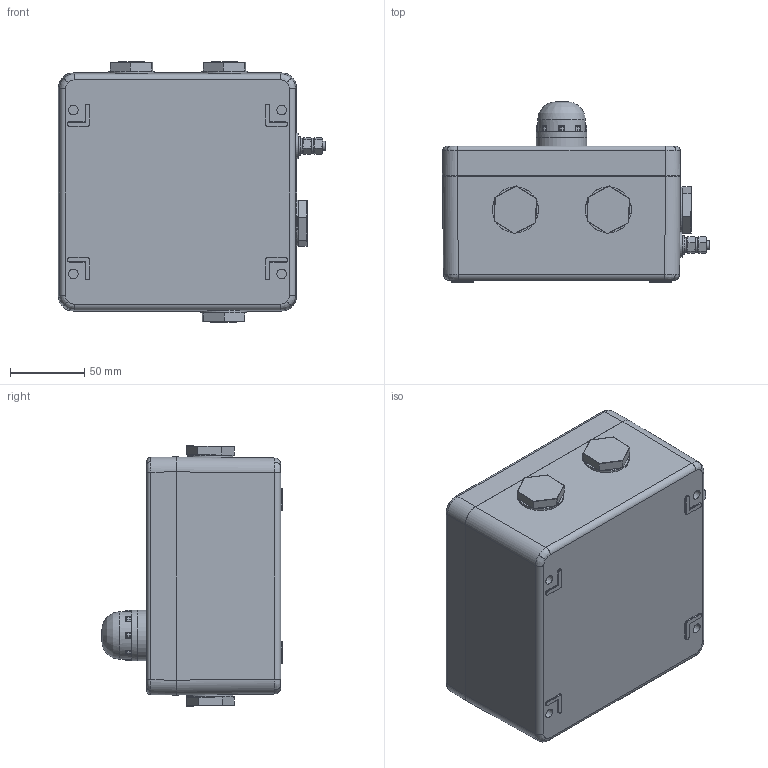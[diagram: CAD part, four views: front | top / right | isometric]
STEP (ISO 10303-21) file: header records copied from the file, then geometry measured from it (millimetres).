
FILE_DESCRIPTION(/* description */ (''),/* implementation_level */ '2;1');
FILE_NAME(/* name */ 'E:\Документы\\X2\041F0440043E0435043A0442044B\X0\ ТЕРМ\\X2\041A043E0440043E0431043A0438\X0\ соединительные\Взрывозащищённые коробки\TERMBOX Ex 160-L\TERMBOX Ex 160-L.stp',/* time_stamp */ '2025-10-02T16:17:03+05:00',/* author */ ('Vlad'),/* organization */ (''),/* preprocessor_version */ 'ST-DEVELOPER v15.6',/* originating_system */ 'Autodesk Inventor 2015',/* authorisation */ '');
FILE_SCHEMA (('AUTOMOTIVE_DESIGN { 1 0 10303 214 3 1 1 }'));
Products named in the file (31): 86224; 86222; 23046-Ex Unterteil; Кольцо; Заглушка \X2\044704510440
043D0430044F\X0\; DIN-6; UT10; UT10 заземление; UT10 серый; BT003; FBS_2-10; Шпилька; Шайба 6 ГОСТ 
11371-78; Гайка M6 ГОСТ 
15526-70; Винт A2.M6-6gx10 \X2\0413041E04210422
\X0\ 17473-80; Шайба 8 ГОСТ 
11371-78; Шайба 2У 6Л 
ГОСТ 6402-78; НШВИ 6,0х6; Кабельный \X2\043D0430043A043E043D
04350447043D0438043A\X0\ кольцевой 
6 кв.мм; Провод для \X2\043F04350440
0435043C044B0447043A0438\X0\ в \X2\043A043E0440043F04430441
\X0\ 160 мм 2й вар.; Перемычка в \X2\043C043E
04340435043B044C\X0\ корпуса 160 \X2\043C
043C\X0\ 2й вар.; TERMBOX Ex 160-L корпус; 93135; 23046-Ex Deckel; Уплотнитель; Наклейка; Лампа ВЭЛАН; Гайка к \X2\043B0430
043C043F0435\X0\; TERMBOX Ex 160-L крышка; TERMBOX Ex 160-L
Assembly tree (61 placements, depth 4):
  TERMBOX Ex 160-L
    TERMBOX Ex 160-L корпус
      23046-Ex Unterteil
        86224  x4
        86222  x6
        23046-Ex Unterteil
      Кольцо  x4
      Заглушка \X2\044704510440
043D0430044F\X0\  x4
      DIN-6
      UT10  x2
      UT10 заземление  x2
      UT10 серый  x3
      BT003
      FBS_2-10
      Шпилька
      Шайба 6 ГОСТ 
11371-78  x4
      Гайка M6 ГОСТ 
15526-70  x4
      Винт A2.M6-6gx10 \X2\0413041E04210422
\X0\ 17473-80  x2
      Шайба 8 ГОСТ 
11371-78
      Шайба 2У 6Л 
ГОСТ 6402-78  x4
      Перемычка в \X2\043C043E
04340435043B044C\X0\ корпуса 160 \X2\043C
043C\X0\ 2й вар.
        НШВИ 6,0х6
        Кабельный \X2\043D0430043A043E043D
04350447043D0438043A\X0\ кольцевой 
6 кв.мм
        Провод для \X2\043F04350440
0435043C044B0447043A0438\X0\ в \X2\043A043E0440043F04430441
\X0\ 160 мм 2й вар.
    TERMBOX Ex 160-L крышка
      93135  x4
      23046-Ex Deckel
      Уплотнитель
      Наклейка
      Лампа ВЭЛАН
      Гайка к \X2\043B0430
043C043F0435\X0\
Bounding box: 179.52 x 121.1 x 174.81 mm (x, y, z)
Volume: 855705.2 mm3; surface area: 344826.9 mm2
Topology: 60 solids, 60 shells, 2612 faces, 6481 edges, 4040 vertices
Faces by surface type: plane 1397, cylinder 618, bspline 254, cone 166, torus 147, sphere 30
Full cylindrical faces by diameter (mm): 3.5 x2, 3.9 x1, 4.917 x4, 5 x27, 5.02 x10, 5.1 x14, 5.3 x4, 5.6 x2, 5.842 x1, 5.9 x1, 6 x8, 6.2 x1, 6.4 x4, 6.8 x1, 7.4 x10, 7.8 x1, 7.867 x1, 8 x4, 8.4 x1, 10 x2, 12 x1, 12.5 x4, 17 x1, 19 x4, 21.5 x1, 23 x8, 25 x4, 27.5 x1, 30 x2, 31 x4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
Entity records: 51102 total; most frequent: CARTESIAN_POINT 14061, DIRECTION 7746, ORIENTED_EDGE 7312, EDGE_CURVE 3656, AXIS2_PLACEMENT_3D 2894, VERTEX_POINT 2325, LINE 1958, VECTOR 1958
